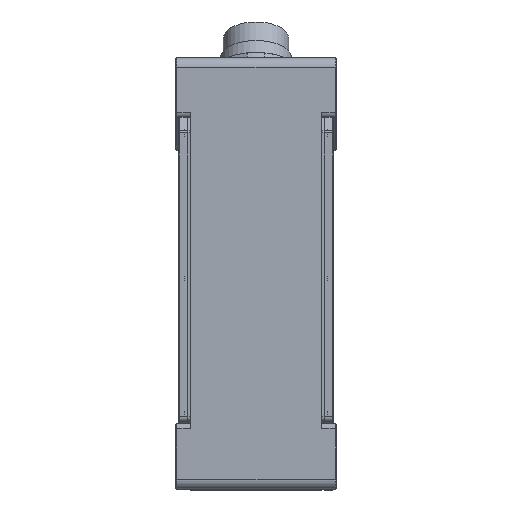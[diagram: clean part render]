
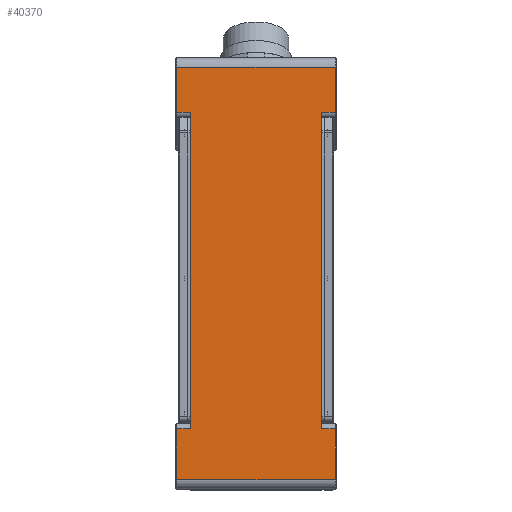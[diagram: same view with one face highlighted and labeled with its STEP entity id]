
A CAD part, top view. The second image highlights one B-rep face of the part: STEP entity #40370.
In plain terms, the highlighted planar face has unit normal (0, 0, 1).
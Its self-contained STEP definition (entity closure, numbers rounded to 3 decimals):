
#2685 = ORIENTED_EDGE ( 'NONE', *, *, #59489, .T. ) ;
#2688 = ORIENTED_EDGE ( 'NONE', *, *, #59494, .T. ) ;
#2690 = ORIENTED_EDGE ( 'NONE', *, *, #59495, .F. ) ;
#2692 = ORIENTED_EDGE ( 'NONE', *, *, #59485, .F. ) ;
#2694 = ORIENTED_EDGE ( 'NONE', *, *, #59493, .T. ) ;
#2697 = ORIENTED_EDGE ( 'NONE', *, *, #59471, .F. ) ;
#2699 = ORIENTED_EDGE ( 'NONE', *, *, #59479, .T. ) ;
#2701 = ORIENTED_EDGE ( 'NONE', *, *, #59488, .T. ) ;
#2703 = ORIENTED_EDGE ( 'NONE', *, *, #59437, .T. ) ;
#2705 = ORIENTED_EDGE ( 'NONE', *, *, #59496, .F. ) ;
#2707 = ORIENTED_EDGE ( 'NONE', *, *, #59482, .T. ) ;
#2709 = ORIENTED_EDGE ( 'NONE', *, *, #59492, .T. ) ;
#3401 = VERTEX_POINT ( 'NONE', #62748 ) ;
#3472 = VERTEX_POINT ( 'NONE', #62819 ) ;
#3922 = VERTEX_POINT ( 'NONE', #53386 ) ;
#3926 = VERTEX_POINT ( 'NONE', #53392 ) ;
#3927 = VERTEX_POINT ( 'NONE', #53393 ) ;
#4020 = VERTEX_POINT ( 'NONE', #53500 ) ;
#4091 = VERTEX_POINT ( 'NONE', #53553 ) ;
#4310 = VERTEX_POINT ( 'NONE', #53690 ) ;
#4316 = VERTEX_POINT ( 'NONE', #53694 ) ;
#4626 = VERTEX_POINT ( 'NONE', #53862 ) ;
#4651 = VERTEX_POINT ( 'NONE', #53877 ) ;
#4655 = VERTEX_POINT ( 'NONE', #53879 ) ;
#5437 = VECTOR ( 'NONE', #14172, 1000. ) ;
#5440 = VECTOR ( 'NONE', #14171, 1000. ) ;
#5443 = VECTOR ( 'NONE', #14168, 1000. ) ;
#5445 = LINE ( 'NONE', #14169, #5440 ) ;
#5447 = VECTOR ( 'NONE', #14166, 1000. ) ;
#5449 = LINE ( 'NONE', #14167, #5443 ) ;
#5451 = VECTOR ( 'NONE', #14164, 1000. ) ;
#5453 = LINE ( 'NONE', #14165, #5447 ) ;
#5457 = LINE ( 'NONE', #14163, #5451 ) ;
#5464 = VECTOR ( 'NONE', #14158, 1000. ) ;
#5468 = VECTOR ( 'NONE', #14149, 1000. ) ;
#5470 = LINE ( 'NONE', #14157, #5464 ) ;
#5473 = LINE ( 'NONE', #14148, #5468 ) ;
#5477 = VECTOR ( 'NONE', #14139, 1000. ) ;
#5481 = LINE ( 'NONE', #14141, #5477 ) ;
#5482 = LINE ( 'NONE', #14153, #5437 ) ;
#5485 = VECTOR ( 'NONE', #14140, 1000. ) ;
#5493 = LINE ( 'NONE', #14134, #5485 ) ;
#5495 = VECTOR ( 'NONE', #14124, 1000. ) ;
#5498 = LINE ( 'NONE', #14125, #5495 ) ;
#5520 = VECTOR ( 'NONE', #14114, 1000. ) ;
#5527 = LINE ( 'NONE', #14112, #5520 ) ;
#5618 = VECTOR ( 'NONE', #14024, 1000. ) ;
#5628 = LINE ( 'NONE', #14018, #5618 ) ;
#14018 = CARTESIAN_POINT ( 'NONE',  ( -13.5, 77.468, 10. ) ) ;
#14024 = DIRECTION ( 'NONE',  ( 0., -1., 0. ) ) ;
#14112 = CARTESIAN_POINT ( 'NONE',  ( 16.5, 2., 10. ) ) ;
#14114 = DIRECTION ( 'NONE',  ( -1., 0., 0. ) ) ;
#14124 = DIRECTION ( 'NONE',  ( 0., -1., 0. ) ) ;
#14125 = CARTESIAN_POINT ( 'NONE',  ( -16.3, 2., 10. ) ) ;
#14134 = CARTESIAN_POINT ( 'NONE',  ( -16.3, 77.468, 10. ) ) ;
#14139 = DIRECTION ( 'NONE',  ( 1., 0., 0. ) ) ;
#14140 = DIRECTION ( 'NONE',  ( 0., -1., 0. ) ) ;
#14141 = CARTESIAN_POINT ( 'NONE',  ( 13.5, 12.464, 10. ) ) ;
#14148 = CARTESIAN_POINT ( 'NONE',  ( -13.5, 12.464, 10. ) ) ;
#14149 = DIRECTION ( 'NONE',  ( -1., 0., 0. ) ) ;
#14153 = CARTESIAN_POINT ( 'NONE',  ( -13.5, 77.468, 10. ) ) ;
#14157 = CARTESIAN_POINT ( 'NONE',  ( 16.3, 2., 10. ) ) ;
#14158 = DIRECTION ( 'NONE',  ( 0., 1., 0. ) ) ;
#14163 = CARTESIAN_POINT ( 'NONE',  ( 16.5, 86.75, 10. ) ) ;
#14164 = DIRECTION ( 'NONE',  ( -1., 0., 0. ) ) ;
#14165 = CARTESIAN_POINT ( 'NONE',  ( 16.3, 2., 10. ) ) ;
#14166 = DIRECTION ( 'NONE',  ( 0., 1., 0. ) ) ;
#14167 = CARTESIAN_POINT ( 'NONE',  ( 13.5, 77.468, 10. ) ) ;
#14168 = DIRECTION ( 'NONE',  ( 1., 0., 0. ) ) ;
#14169 = CARTESIAN_POINT ( 'NONE',  ( 13.5, 77.468, 10. ) ) ;
#14171 = DIRECTION ( 'NONE',  ( 0., -1., 0. ) ) ;
#14172 = DIRECTION ( 'NONE',  ( -1., 0., 0. ) ) ;
#24993 = CARTESIAN_POINT ( 'NONE',  ( 16.5, 2., 10. ) ) ;
#24997 = PLANE ( 'NONE',  #61764 ) ;
#25005 = DIRECTION ( 'NONE',  ( 0., 0., -1. ) ) ;
#25008 = DIRECTION ( 'NONE',  ( 0., 1., 0. ) ) ;
#40370 = ADVANCED_FACE ( 'NONE', ( #52407 ), #24997, .F. ) ;
#52407 = FACE_OUTER_BOUND ( 'NONE', #58248, .T. ) ;
#53386 = CARTESIAN_POINT ( 'NONE',  ( 13.5, 12.464, 10. ) ) ;
#53392 = CARTESIAN_POINT ( 'NONE',  ( -16.3, 12.464, 10. ) ) ;
#53393 = CARTESIAN_POINT ( 'NONE',  ( -16.3, 2., 10. ) ) ;
#53500 = CARTESIAN_POINT ( 'NONE',  ( -16.3, 86.75, 10. ) ) ;
#53553 = CARTESIAN_POINT ( 'NONE',  ( -13.5, 77.468, 10. ) ) ;
#53690 = CARTESIAN_POINT ( 'NONE',  ( -16.3, 77.468, 10. ) ) ;
#53694 = CARTESIAN_POINT ( 'NONE',  ( 16.3, 86.75, 10. ) ) ;
#53862 = CARTESIAN_POINT ( 'NONE',  ( 13.5, 77.468, 10. ) ) ;
#53877 = CARTESIAN_POINT ( 'NONE',  ( 16.3, 12.464, 10. ) ) ;
#53879 = CARTESIAN_POINT ( 'NONE',  ( 16.3, 77.468, 10. ) ) ;
#58248 = EDGE_LOOP ( 'NONE', ( #2709, #2707, #2705, #2703, #2701, #2699, #2697, #2694, #2692, #2690, #2688, #2685 ) ) ;
#59437 = EDGE_CURVE ( 'NONE', #4091, #3472, #5628, .T. ) ;
#59471 = EDGE_CURVE ( 'NONE', #3401, #3927, #5527, .T. ) ;
#59479 = EDGE_CURVE ( 'NONE', #3926, #3927, #5498, .T. ) ;
#59482 = EDGE_CURVE ( 'NONE', #4020, #4310, #5493, .T. ) ;
#59485 = EDGE_CURVE ( 'NONE', #3922, #4651, #5481, .T. ) ;
#59488 = EDGE_CURVE ( 'NONE', #3472, #3926, #5473, .T. ) ;
#59489 = EDGE_CURVE ( 'NONE', #4655, #4316, #5470, .T. ) ;
#59492 = EDGE_CURVE ( 'NONE', #4316, #4020, #5457, .T. ) ;
#59493 = EDGE_CURVE ( 'NONE', #3401, #4651, #5453, .T. ) ;
#59494 = EDGE_CURVE ( 'NONE', #4626, #4655, #5449, .T. ) ;
#59495 = EDGE_CURVE ( 'NONE', #4626, #3922, #5445, .T. ) ;
#59496 = EDGE_CURVE ( 'NONE', #4091, #4310, #5482, .T. ) ;
#61764 = AXIS2_PLACEMENT_3D ( 'NONE', #24993, #25005, #25008 ) ;
#62748 = CARTESIAN_POINT ( 'NONE',  ( 16.3, 2., 10. ) ) ;
#62819 = CARTESIAN_POINT ( 'NONE',  ( -13.5, 12.464, 10. ) ) ;
